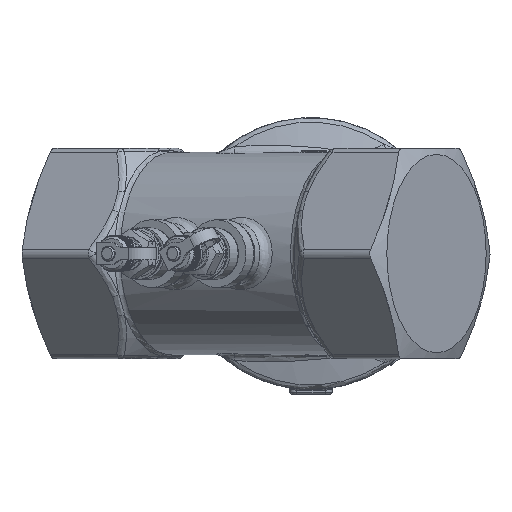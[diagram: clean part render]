
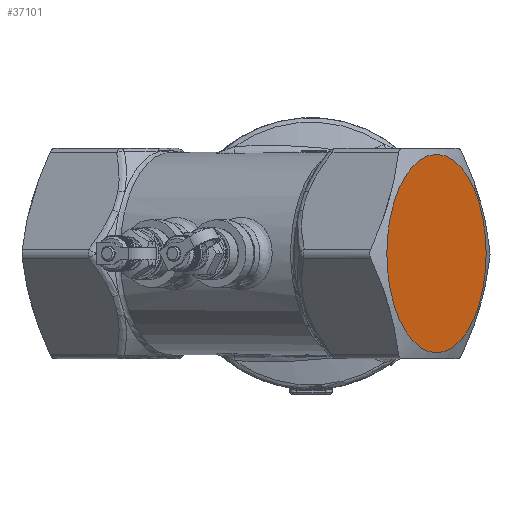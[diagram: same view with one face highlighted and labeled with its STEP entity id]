
A CAD part, front view. The second image highlights one B-rep face of the part: STEP entity #37101.
In plain terms, the highlighted planar face has unit normal (0.866, -0.5, 0).
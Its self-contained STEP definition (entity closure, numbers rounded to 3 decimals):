
#1802=PLANE($,#39519);
#3205=FACE_OUTER_BOUND($,#5347,.T.);
#5347=EDGE_LOOP($,(#27922));
#7959=CIRCLE($,#39520,32.875);
#15731=VERTEX_POINT($,#62036);
#20047=EDGE_CURVE($,#15731,#15731,#7959,.T.);
#27922=ORIENTED_EDGE($,*,*,#20047,.T.);
#37101=ADVANCED_FACE($,(#3205),#1802,.F.);
#39519=AXIS2_PLACEMENT_3D($,#62035,#44884,#44885);
#39520=AXIS2_PLACEMENT_3D($,#62037,#44886,#44887);
#44884=DIRECTION('center_axis',(-0.866,0.5,0.));
#44885=DIRECTION('ref_axis',(0.,0.,1.));
#44886=DIRECTION('center_axis',(0.866,-0.5,0.));
#44887=DIRECTION('ref_axis',(-0.5,-0.866,0.));
#62035=CARTESIAN_POINT('Origin',(41.569,-149.8,0.));
#62036=CARTESIAN_POINT('',(25.132,-178.271,0.));
#62037=CARTESIAN_POINT('Origin',(41.569,-149.8,0.));
